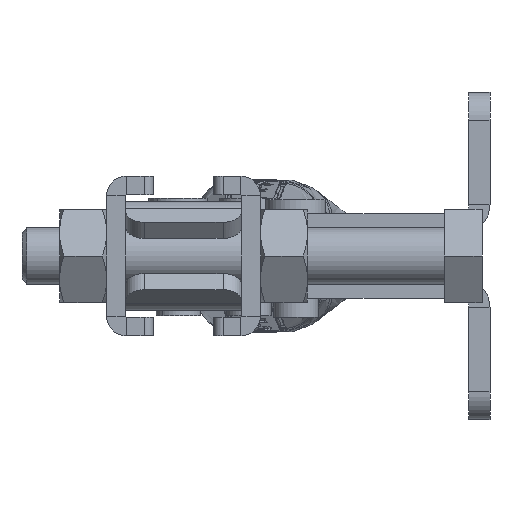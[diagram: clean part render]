
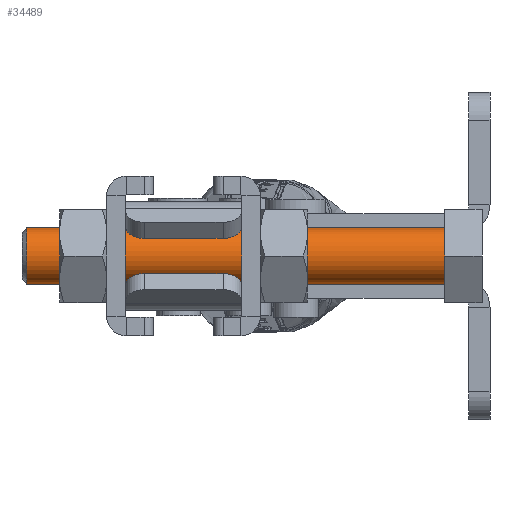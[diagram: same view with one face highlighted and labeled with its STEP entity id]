
A CAD part, left-side view. The second image highlights one B-rep face of the part: STEP entity #34489.
In plain terms, the highlighted cylindrical face has radius 3 mm (diameter 6 mm), a partial arc.
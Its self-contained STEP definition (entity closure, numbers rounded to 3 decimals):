
#1248 = EDGE_CURVE ( 'NONE', #10947, #29615, #11570, .T. ) ;
#2872 = EDGE_CURVE ( 'NONE', #8066, #29615, #20130, .T. ) ;
#5435 = CARTESIAN_POINT ( 'NONE',  ( 0., -44.5, 3. ) ) ;
#5976 = LINE ( 'NONE', #12265, #28717 ) ;
#6679 = EDGE_CURVE ( 'NONE', #10947, #34172, #10267, .T. ) ;
#6904 = ORIENTED_EDGE ( 'NONE', *, *, #2872, .T. ) ;
#7235 = FACE_OUTER_BOUND ( 'NONE', #23507, .T. ) ;
#7313 = DIRECTION ( 'NONE',  ( 0., -1., 0. ) ) ;
#7352 = AXIS2_PLACEMENT_3D ( 'NONE', #16202, #13450, #10569 ) ;
#7570 = EDGE_CURVE ( 'NONE', #34172, #8066, #5976, .T. ) ;
#8066 = VERTEX_POINT ( 'NONE', #32225 ) ;
#9905 = AXIS2_PLACEMENT_3D ( 'NONE', #23772, #7313, #26496 ) ;
#10267 = CIRCLE ( 'NONE', #33727, 3. ) ;
#10569 = DIRECTION ( 'NONE',  ( 0., 0., 1. ) ) ;
#10947 = VERTEX_POINT ( 'NONE', #34158 ) ;
#11570 = LINE ( 'NONE', #26049, #18006 ) ;
#12265 = CARTESIAN_POINT ( 'NONE',  ( 0., -45., 3. ) ) ;
#13164 = ORIENTED_EDGE ( 'NONE', *, *, #6679, .T. ) ;
#13338 = DIRECTION ( 'NONE',  ( 0., 1., 0. ) ) ;
#13450 = DIRECTION ( 'NONE',  ( 0., 1., 0. ) ) ;
#15111 = DIRECTION ( 'NONE',  ( 0., 1., 0. ) ) ;
#16202 = CARTESIAN_POINT ( 'NONE',  ( 0., -45., 0. ) ) ;
#18006 = VECTOR ( 'NONE', #15111, 1000. ) ;
#20130 = CIRCLE ( 'NONE', #9905, 3. ) ;
#23507 = EDGE_LOOP ( 'NONE', ( #30954, #13164, #28888, #6904 ) ) ;
#23772 = CARTESIAN_POINT ( 'NONE',  ( 0., 0., 0. ) ) ;
#26049 = CARTESIAN_POINT ( 'NONE',  ( 0., -45., -3. ) ) ;
#26496 = DIRECTION ( 'NONE',  ( 0., 0., 1. ) ) ;
#28700 = DIRECTION ( 'NONE',  ( 0., 1., 0. ) ) ;
#28717 = VECTOR ( 'NONE', #28700, 1000. ) ;
#28888 = ORIENTED_EDGE ( 'NONE', *, *, #7570, .T. ) ;
#29615 = VERTEX_POINT ( 'NONE', #32001 ) ;
#29776 = CARTESIAN_POINT ( 'NONE',  ( 0., -44.5, 0. ) ) ;
#30954 = ORIENTED_EDGE ( 'NONE', *, *, #1248, .F. ) ;
#32001 = CARTESIAN_POINT ( 'NONE',  ( 0., 0., -3. ) ) ;
#32225 = CARTESIAN_POINT ( 'NONE',  ( 0., 0., 3. ) ) ;
#32532 = DIRECTION ( 'NONE',  ( 0., 0., -1. ) ) ;
#33727 = AXIS2_PLACEMENT_3D ( 'NONE', #29776, #13338, #32532 ) ;
#34158 = CARTESIAN_POINT ( 'NONE',  ( 0., -44.5, -3. ) ) ;
#34172 = VERTEX_POINT ( 'NONE', #5435 ) ;
#34489 = ADVANCED_FACE ( 'NONE', ( #7235 ), #35605, .T. ) ;
#35605 = CYLINDRICAL_SURFACE ( 'NONE', #7352, 3. ) ;
